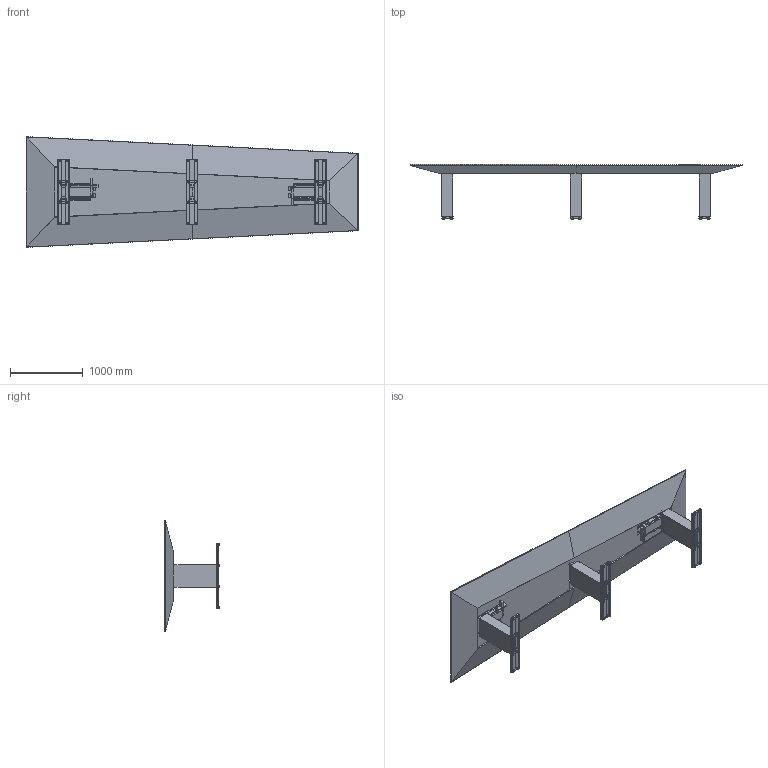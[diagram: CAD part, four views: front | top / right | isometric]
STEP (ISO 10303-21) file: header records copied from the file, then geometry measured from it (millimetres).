
FILE_DESCRIPTION(/* description */ ('','CAx-IF Rec.Pracs.---Representation and Presentation of Product Manufacturing Information (PMI)---4.0---2014-10-13'),/* implementation_level */ '2;1');
FILE_NAME(/* name */ 'AERO^TA4.stp',/* time_stamp */ '2024-12-05T17:17:28-05:00',/* author */ ('mbowman'),/* organization */ (''),/* preprocessor_version */ 'ST-DEVELOPER v19.2',/* originating_system */ 'Autodesk Inventor 2023',/* authorisation */ '');
FILE_SCHEMA (('AP242_MANAGED_MODEL_BASED_3D_ENGINEERING_MIM_LF { 1 0 10303 442 1 1 4 }'));
Products named in the file (56): AERO^TABLE 4_4260 WEDGE-SOLID ASSEMBLY; AERO^TABLE 4_4260 WEDGE-PARTS SOLID; AERO^TABLE 4_4260 WEDGE-POWER LID; AERO^TABLE 4__AMC-611V-122; AERO^TABLE 4_H-QFTC624U-155; AERO^TABLE 4_H-QTFC634^FRAME66; AERO^TABLE 4_H-QTFC624^TOP^2661367; AERO^TABLE 4_H-QTFC624-NEW^BTM65; AERO^TABLE 4_QDESIGN-BASE-VER01-BCK PNL58; AERO^TABLE 4_QDESIGN-BASE-VER01-DOOR56; AERO^TABLE 4_QDESIGN-BASE-VER01-DOOR PNL68; AERO^TABLE 4_Z-CLIP 25in THK - (HL-131)61; AERO^TABLE 4_H-BRUSH480SD57; AERO^TABLE 4_H-BRUSH1.60D-10.3754; AERO^TABLE 4_H-BRUSH1.60D^Sealeze brush 2in-10.3762; AERO^TABLE 4_H-BRUSH1.60D^Sealeze Brush Strip-edge-10.3763; AERO^TABLE 4__AMC-611^DOOR PNL STOP59; AERO^TABLE 4_QDESIGN-BASE-VER01-END PNL - LFT60; AERO^TABLE 4_6  X 36 BASE-REV221; AERO^TABLE 4_H-QCTB36-SS48; AERO^TABLE 4_H-QFTB3647; AERO^TABLE 4__AMC-630-AL^BASE FRAME52; AERO^TABLE 4__AMC-630-AL^BASE FRAME PLT51; AERO^TABLE 4__AMC-630-AL^BASE FRAME 0250; AERO^TABLE 4_H-COD-GLIDE241; KIM POWER TRAY; Hex Machine Screw Nut - Inch 8 - 36; H-QPDM2C-REV2 STRAIGHT; VGA 35 HDMI; 1AA12-009 MA1; VGA; 3AA06-001; SDH15S_Without Mounting Flange and Solder Cups; DGB9F-MA1_GENDER CHANGER; 3AA05-002; 3AB14-020___; 1AM07-031___; 1AJ01-018___; 1AJ06-031___; 1AH01-003___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
Assembly tree (113 placements, depth 5):
  AERO^TABLE 4_4260 WEDGE-SOLID ASSEMBLY
    AERO^TABLE 4_4260 WEDGE-PARTS SOLID
    AERO^TABLE 4_4260 WEDGE-POWER LID  x2
    AERO^TABLE 4__AMC-611V-122  x3
      AERO^TABLE 4_H-QFTC624U-155
        AERO^TABLE 4_H-QTFC634^FRAME66
        AERO^TABLE 4_H-QTFC624^TOP^2661367
        AERO^TABLE 4_H-QTFC624-NEW^BTM65
      AERO^TABLE 4_QDESIGN-BASE-VER01-END PNL - LFT60
      AERO^TABLE 4_QDESIGN-BASE-VER01-BCK PNL58
      AERO^TABLE 4_QDESIGN-BASE-VER01-DOOR56
        AERO^TABLE 4_QDESIGN-BASE-VER01-DOOR PNL68
      AERO^TABLE 4_Z-CLIP 25in THK - (HL-131)61
      AERO^TABLE 4_H-BRUSH480SD57
      AERO^TABLE 4_H-BRUSH1.60D-10.3754
        AERO^TABLE 4_H-BRUSH1.60D^Sealeze brush 2in-10.3762
        AERO^TABLE 4_H-BRUSH1.60D^Sealeze Brush Strip-edge-10.3763
      AERO^TABLE 4__AMC-611^DOOR PNL STOP59
    AERO^TABLE 4_6  X 36 BASE-REV221  x3
      AERO^TABLE 4_H-QCTB36-SS48
      AERO^TABLE 4_H-QFTB3647
        AERO^TABLE 4__AMC-630-AL^BASE FRAME52  x2
        AERO^TABLE 4__AMC-630-AL^BASE FRAME 0250  x8
        AERO^TABLE 4__AMC-630-AL^BASE FRAME PLT51  x2
      AERO^TABLE 4_H-COD-GLIDE241
    KIM POWER TRAY  x2
      Hex Machine Screw Nut - Inch 8 - 36
      H-QPDM2C-REV2 STRAIGHT
      VGA 35 HDMI
        BLANK
        1AA12-009 MA1
        VGA
          SDH15S_Without Mounting Flange and Solder Cups  x2
          3AA06-001  x2
          3AA05-002  x2
          DGB9F-MA1_GENDER CHANGER
        3AB14-020___
          1AM07-031___
          1AJ06-031___  x2
          1AJ01-018___
          1AH01-003___
      2 RJ45
        BLANK
        TDG1026KC6  x2
      BE08382-3-2-30_1-SQ
      BLANK
    2024_10_23_14_22_01_0197
      2024_10_23_14_22_01_0369
      2024_10_23_14_22_01_0354
      2024_10_23_14_22_01_0338
      2024_10_23_14_22_01_0322
      2024_10_23_14_22_01_0307
      2024_10_23_14_22_01_0291
      2024_10_23_14_22_01_0275
      Base PLate 1
    2024_10_23_14_22_01_0197_1
      2024_10_23_14_22_01_0369
      2024_10_23_14_22_01_0354
      2024_10_23_14_22_01_0338
      2024_10_23_14_22_01_0322
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Bounding box: 4572 x 755.66 x 1524 mm (x, y, z)
Volume: 250459990.2 mm3; surface area: 30415405.8 mm2
Topology: 236 solids, 244 shells, 10203 faces, 26675 edges, 17480 vertices
Faces by surface type: plane 7093, cylinder 2100, bspline 600, cone 208, torus 158, sphere 44
Full cylindrical faces by diameter (mm): 0 x4, 0.991 x60, 2.197 x4, 2.261 x32, 2.3 x4, 2.5 x36, 2.63 x12, 2.743 x4, 2.794 x8, 2.8 x4, 3 x20, 3.048 x4, 3.11 x12, 3.124 x4, 3.2 x12, 3.242 x4, 3.404 x4, 3.556 x6, 4.5 x20, 4.762 x54, 4.978 x24, 5.77 x4, 6 x2, 6.35 x24, 6.5 x2, 6.66 x4, 7 x4, 7.144 x24, 7.5 x2, 7.874 x4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
Entity records: 127145 total; most frequent: CARTESIAN_POINT 35635, ORIENTED_EDGE 18136, DIRECTION 17576, EDGE_CURVE 9068, LINE 7058, VECTOR 7058, VERTEX_POINT 5941, AXIS2_PLACEMENT_3D 5259
